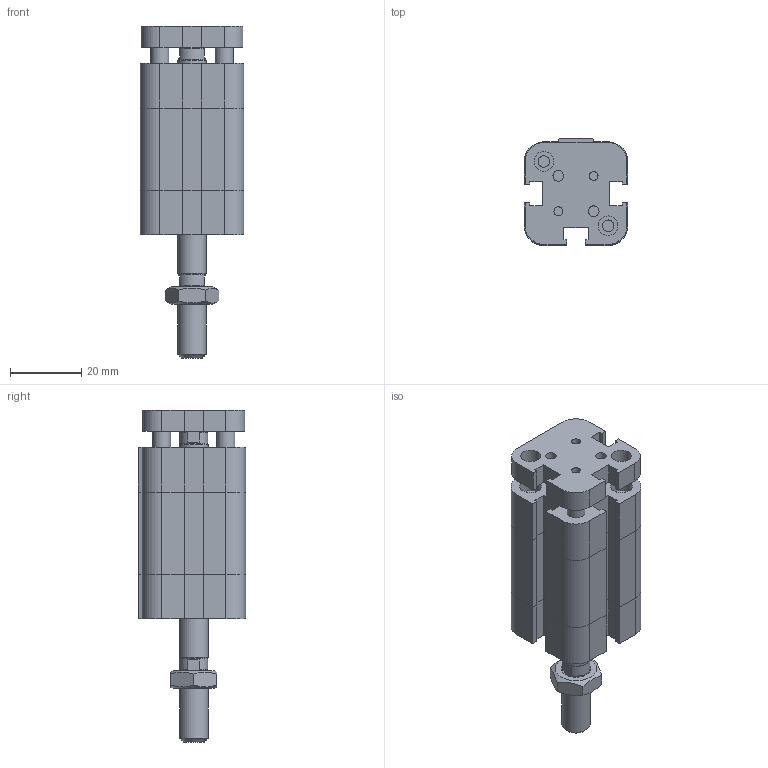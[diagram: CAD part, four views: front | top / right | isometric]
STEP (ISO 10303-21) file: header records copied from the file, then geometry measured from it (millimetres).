
FILE_DESCRIPTION((''),'2;1');
FILE_NAME('I:\Area Tecnica\Disegni\VARIE-3D\Componenti\EUROPE\15##_###_####_09_#\1581_16_0010_09_1.iam.stp','2009-04-20T15:42:30',(''),(''),'Autodesk Inventor 2009','Autodesk Inventor 2009','');
FILE_SCHEMA(('AUTOMOTIVE_DESIGN { 1 0 10303 214 1 1 1 1 }'));
Length unit declared in the file: millimetre
Products named in the file (4): 1581_16_0010_09_1; 1581_16_0010_08_1_C; 1561_16_0010_09_1_SA; DBM8
Assembly tree (3 placements, depth 2):
  1581_16_0010_09_1
    1581_16_0010_08_1_C
    1561_16_0010_09_1_SA
    DBM8
Bounding box: 29 x 30 x 93 mm (x, y, z)
Volume: 40384.1 mm3; surface area: 17826.5 mm2
Topology: 3 solids, 3 shells, 223 faces, 523 edges, 326 vertices
Faces by surface type: plane 144, bspline 46, cylinder 23, cone 10
Full cylindrical faces by diameter (mm): 5 x2, 6.5 x1, 7.8 x2, 8 x2
Entity records: 6544 total; most frequent: CARTESIAN_POINT 1548, ORIENTED_EDGE 934, DIRECTION 916, EDGE_CURVE 467, VECTOR 346, LINE 346, VERTEX_POINT 309, EDGE_LOOP 298
